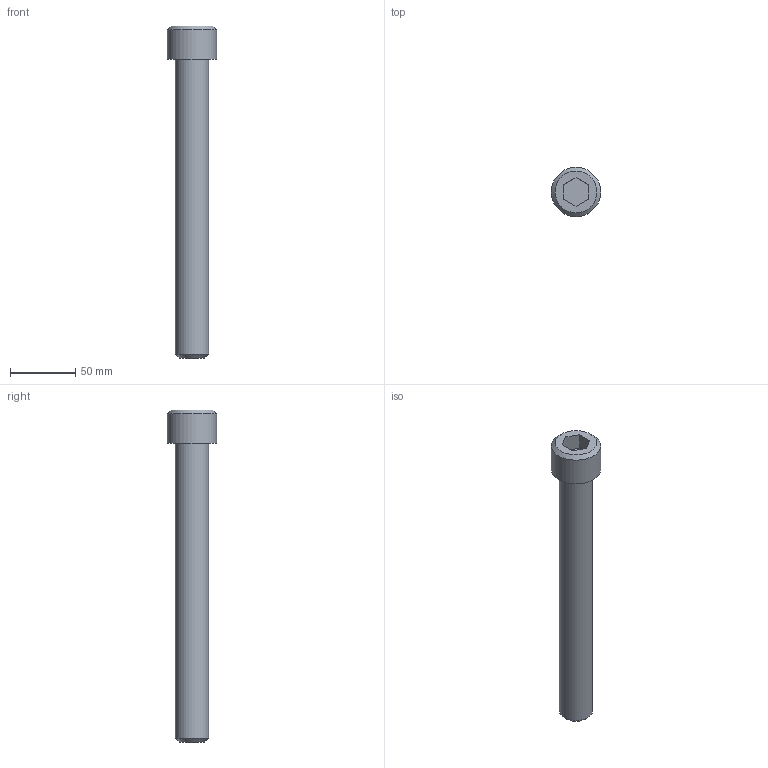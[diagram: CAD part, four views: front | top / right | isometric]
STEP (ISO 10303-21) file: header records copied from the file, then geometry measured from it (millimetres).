
FILE_DESCRIPTION((''),'2;1');
FILE_NAME('C:\Users\Stan\Desktop\import\SHCS 1-8 UNCx9.ipt.step','2011-08-18T17:44:26',(''),(''),'Autodesk Inventor 2012','Autodesk Inventor 2012','');
FILE_SCHEMA(('AUTOMOTIVE_DESIGN { 1 0 10303 214 1 1 1 1 }'));
Length unit declared in the file: inch
Products named in the file (1): SHCS 1-8 UNCx9
Bounding box: 37.8 x 37.8 x 253.85 mm (x, y, z)
Volume: 139426.3 mm3; surface area: 23954.3 mm2
Topology: 1 solids, 1 shells, 14 faces, 28 edges, 18 vertices
Faces by surface type: plane 10, cone 2, cylinder 2
Full cylindrical faces by diameter (mm): 25.4 x1, 37.795 x1
Entity records: 391 total; most frequent: DIRECTION 60, CARTESIAN_POINT 57, ORIENTED_EDGE 48, EDGE_CURVE 24, AXIS2_PLACEMENT_3D 21, EDGE_LOOP 20, VERTEX_POINT 18, VECTOR 18
